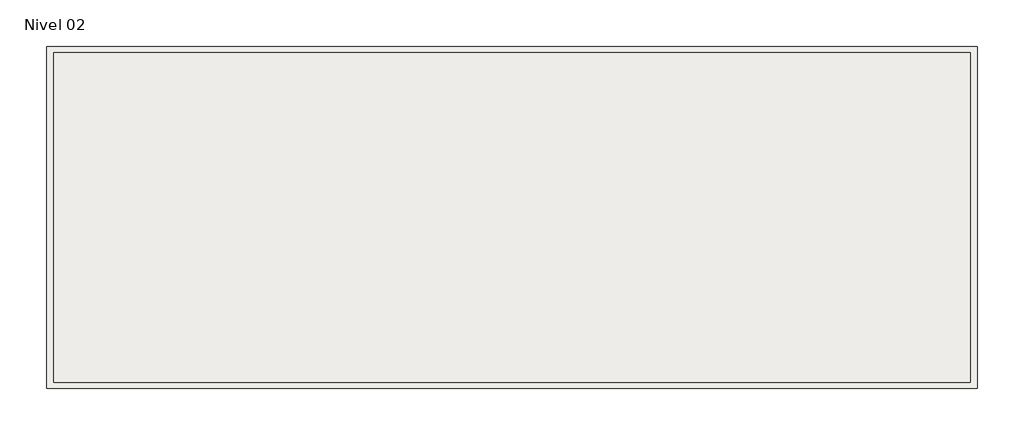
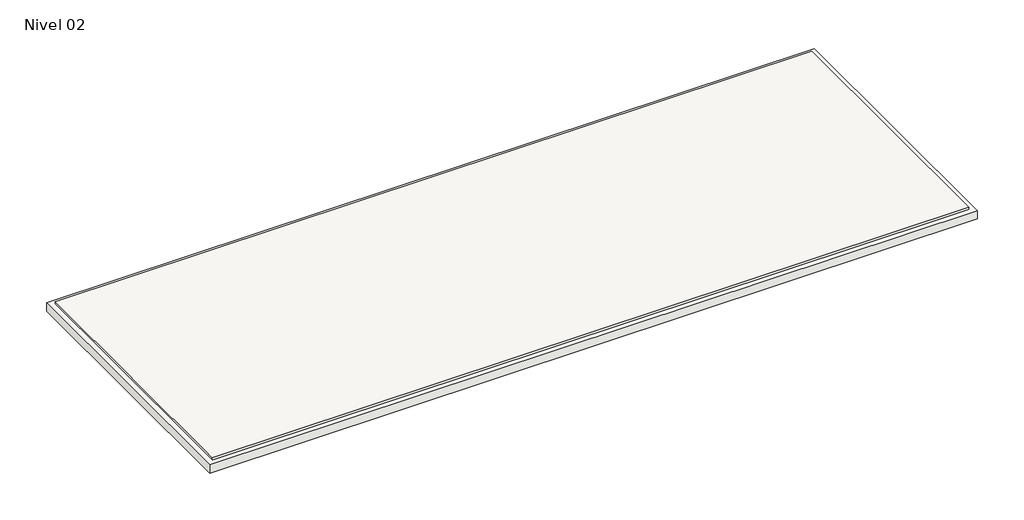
# One storey: 1 roof.
"""IFC4 building model written with IfcOpenShell, lengths in millimetres."""

from ifc_helpers import new_model, si_unit, frame, origin, place, context, project, spatial, polyline, outline, extrude, element, save

model = new_model("IFC4")

# Units and contexts
model_context = context("Model", 3, world=origin())
ifc_project = project(units=[si_unit("LENGTHUNIT", "METRE", prefix="MILLI")], contexts=[model_context])

# Site, building, storey
site = spatial("IfcSite", under=ifc_project)
building = spatial("IfcBuilding", under=site)
storey = spatial("IfcBuildingStorey", under=building, Name="Nivel 02", Elevation=4580.0)

# Roof
placement = place(None, origin())
element("IfcRoof", 1, ObjectType="Mies-32", at=placement, inside=storey, context=model_context, shape_type="SweptSolid", body=[
    extrude(outline(polyline([(14222.772648, -3322.1309012), (-9129.8825244, -3322.1309012), (-9129.8825244, 5076.4380644), (14222.772648, 5076.4380644), (14222.772648, -3322.1309012)])), frame((0.0, 0.0, 4550.0), z_axis=(0.0, 0.0, 1.0), x_axis=(1.0, 0.0, 0.0)), (0.0, 0.0, 1.0), 70.0),
    extrude(outline(polyline([(14402.672648, -3483.1309012), (-9309.7825244, -3483.1309012), (-9309.7825244, 5237.4380644), (14402.672648, 5237.4380644), (14402.672648, -3483.1309012)])), frame((0.0, 0.0, 4280.0), z_axis=(0.0, 0.0, 1.0), x_axis=(1.0, 0.0, 0.0)), (0.0, 0.0, 1.0), 270.0),
])

save(model, "model.ifc")
